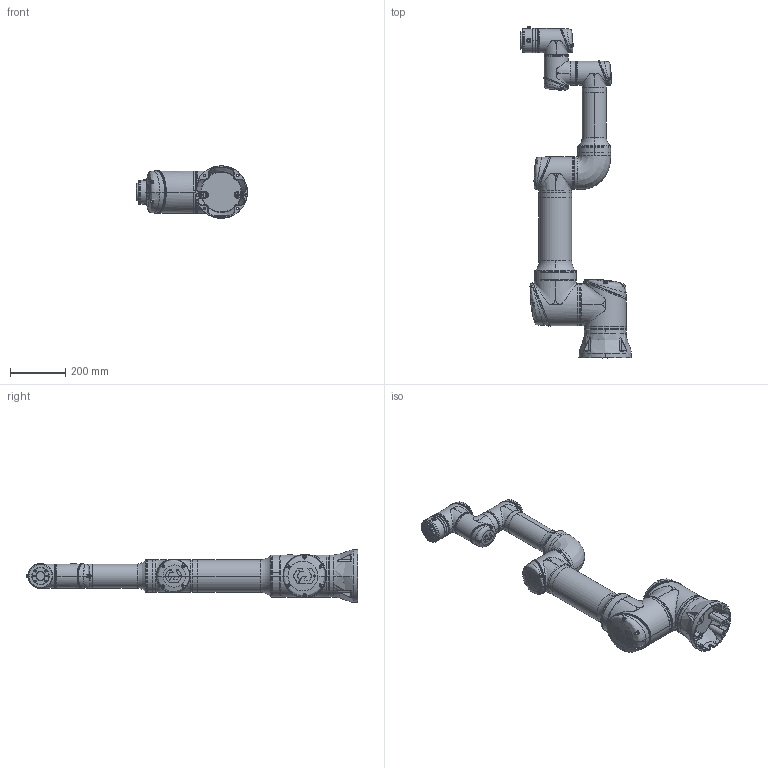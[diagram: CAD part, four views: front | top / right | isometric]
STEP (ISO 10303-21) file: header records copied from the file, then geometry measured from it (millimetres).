
FILE_DESCRIPTION (( 'STEP AP203' ), '1' );
FILE_NAME ('CS_掛极CS618F_V1.2.STEP', '2026-07-27T05:51:22', ( '' ), ( '' ), 'SwSTEP 2.0', 'SolidWorks 2017', '' );
FILE_SCHEMA (( 'CONFIG_CONTROL_DESIGN' ));
Length unit declared in the file: millimetre
Products named in the file (8): CS616-Link2; CS612-Link1; CS616-Link3; CS616-Link4; CS616-Link5; CS618F藺傷; CS_掛极CS618F_V1.2; CS616-Base
Assembly tree (7 placements, depth 2):
  CS_掛极CS618F_V1.2
    CS616-Base
    CS612-Link1
    CS616-Link2
    CS616-Link3
    CS616-Link4
    CS616-Link5
    CS618F藺傷
Bounding box: 401.18 x 1199.5 x 189.7 mm (x, y, z)
Volume: 19600442.1 mm3; surface area: 1306639.8 mm2
Topology: 81 solids, 94 shells, 5434 faces, 12932 edges, 7690 vertices
Faces by surface type: bspline 2020, plane 1405, cylinder 1085, cone 393, torus 326, sphere 205
Entity records: 443935 total; most frequent: CARTESIAN_POINT 335259, ORIENTED_EDGE 25274, DIRECTION 18717, EDGE_CURVE 12637, AXIS2_PLACEMENT_3D 7903, VERTEX_POINT 7644, EDGE_LOOP 5779, ADVANCED_FACE 5434
